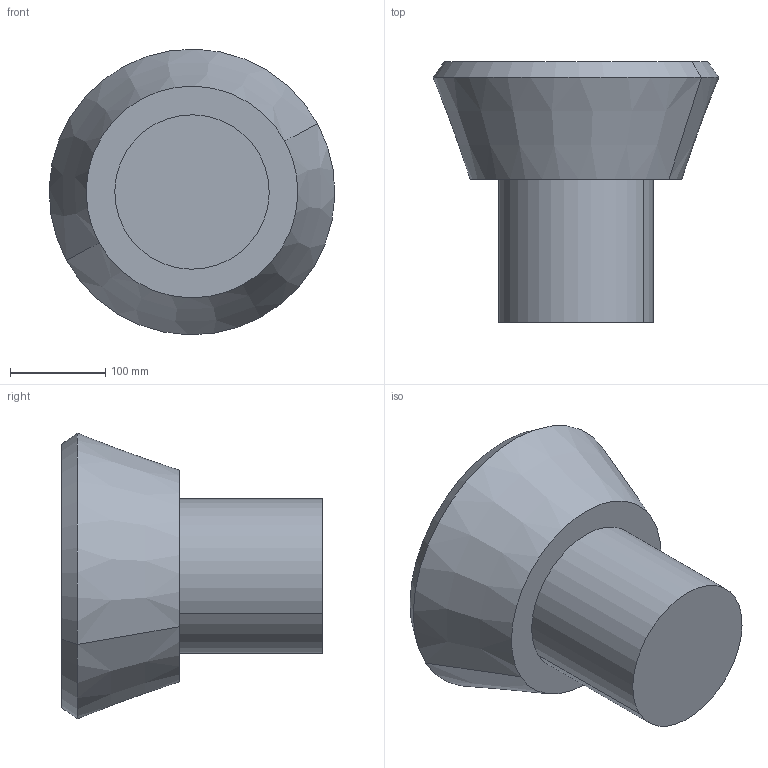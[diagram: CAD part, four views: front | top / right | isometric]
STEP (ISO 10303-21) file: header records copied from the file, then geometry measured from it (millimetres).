
FILE_DESCRIPTION(('CATIA V5 STEP Exchange'),'2;1');
FILE_NAME('C:\_Andres\UNIVERSIDAD\IQS\ASIGNATURAS\DAO\EXF\EXF-15161c\1original\Ripoll_Piera_Ej09-optimiza_v21.stp','2016-03-04T21:55:30+00:00',('none'),('none'),'CATIA Version 5 Release 20 SP 1 (IN-10)','CATIA V5 STEP AP203','none');
FILE_SCHEMA(('CONFIG_CONTROL_DESIGN'));
Length unit declared in the file: millimetre
Products named in the file (1): Ripoll_Piera_Ej09-optimiza_v21
Bounding box: 299.6 x 273.1 x 299.6 mm (x, y, z)
Volume: 9887136.3 mm3; surface area: 290767.5 mm2
Topology: 1 solids, 2 shells, 13 faces, 22 edges, 14 vertices
Faces by surface type: plane 5, cylinder 4, cone 4
Entity records: 324 total; most frequent: CARTESIAN_POINT 47, ORIENTED_EDGE 44, DIRECTION 42, AXIS2_PLACEMENT_3D 25, EDGE_CURVE 22, CIRCLE 14, EDGE_LOOP 14, VERTEX_POINT 14
